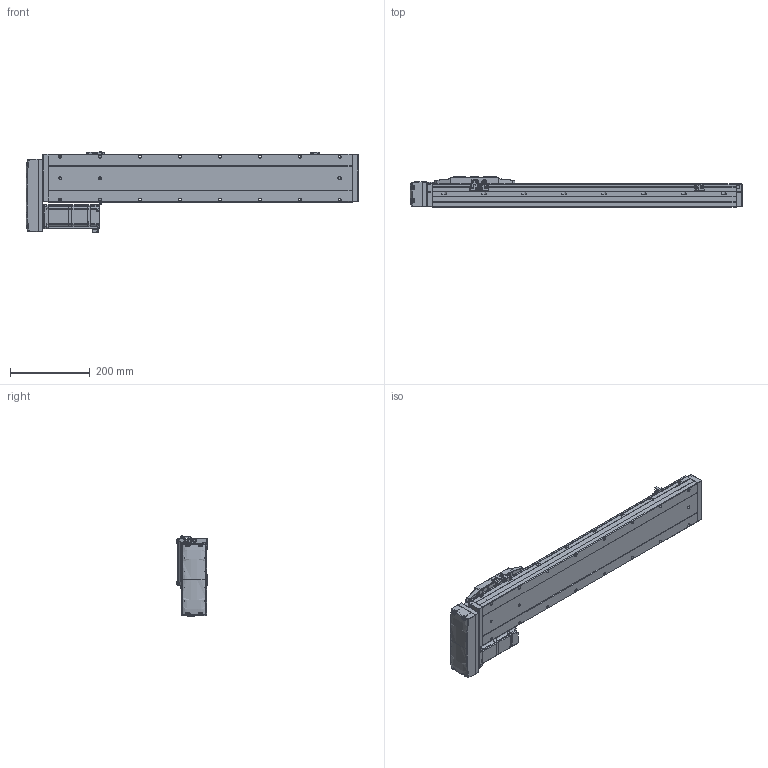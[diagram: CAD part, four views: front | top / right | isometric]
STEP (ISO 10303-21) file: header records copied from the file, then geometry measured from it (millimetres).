
FILE_DESCRIPTION (( 'STEP AP214' ), '1' );
FILE_NAME ('CTH12-L10-S550-BR-C40（简）.STEP', '2023-02-04T07:06:08', ( '' ), ( '' ), 'SwSTEP 2.0', 'SolidWorks 2018', '' );
FILE_SCHEMA (( 'AUTOMOTIVE_DESIGN' ));
Length unit declared in the file: millimetre
Products named in the file (24): 内六角圆柱头螺钉M3; 嫖萇羲壽郪磁2; CTH400W垫板（3个厚）; PM-Y45; CTH12覜茼え; 蚐郲; M5蹟隊; CTH12底座-L761简（550行程）; 湮賑怢  裔赽-1(CTH12)賑怢; 内六角圆柱头螺钉M3-1; CTH12賑怢郪磁; CTH12; 内六角圆柱头螺钉M3-2; CTH12賑怢ㄗ潠ㄘ; 嫖萇羲壽郪磁1; AC60_Valor predeterminado; CTH12耜蚾裔; CTH12_body_3; CTH嫖萇羲壽假蚾啣; CTH12-L10-S550-BR-C40（简）; hex nuts, style 1-grades ab gb_GB_FASTENER_NUT_SNAB1 M3-N; CTH12-BL_body_4; CTH400W假蚾啣; CTH12侧装连接板（标准）简
Assembly tree (44 placements, depth 4):
  CTH12-L10-S550-BR-C40（简）
    CTH12底座-L761简（550行程）
    蚐郲  x2
    CTH12_body_3
    CTH12-BL_body_4
    CTH12侧装连接板（标准）简
    CTH12耜蚾裔
    CTH12賑怢郪磁
      CTH12
        湮賑怢  裔赽-1(CTH12)賑怢
        CTH12賑怢ㄗ潠ㄘ
    CTH12覜茼え
    嫖萇羲壽郪磁1  x2
      CTH嫖萇羲壽假蚾啣
      PM-Y45
      内六角圆柱头螺钉M3-2
      内六角圆柱头螺钉M3-1
      hex nuts, style 1-grades ab gb_GB_FASTENER_NUT_SNAB1 M3-N
    嫖萇羲壽郪磁2
      CTH嫖萇羲壽假蚾啣
      PM-Y45
      内六角圆柱头螺钉M3-1  x2
      内六角圆柱头螺钉M3-2  x2
      hex nuts, style 1-grades ab gb_GB_FASTENER_NUT_SNAB1 M3-N  x2
    CTH400W垫板（3个厚）
    AC60_Valor predeterminado
    内六角圆柱头螺钉M3  x6
    M5蹟隊  x4
    CTH400W假蚾啣
Bounding box: 831.5 x 76 x 201.06 mm (x, y, z)
Volume: 5937226 mm3; surface area: 594048.8 mm2
Topology: 47 solids, 48 shells, 2780 faces, 7083 edges, 4521 vertices
Faces by surface type: plane 1519, cylinder 780, cone 331, bspline 98, torus 52
Entity records: 80341 total; most frequent: CARTESIAN_POINT 22014, ORIENTED_EDGE 11346, DIRECTION 11028, EDGE_CURVE 5673, AXIS2_PLACEMENT_3D 3728, VERTEX_POINT 3625, VECTOR 3572, LINE 3572
